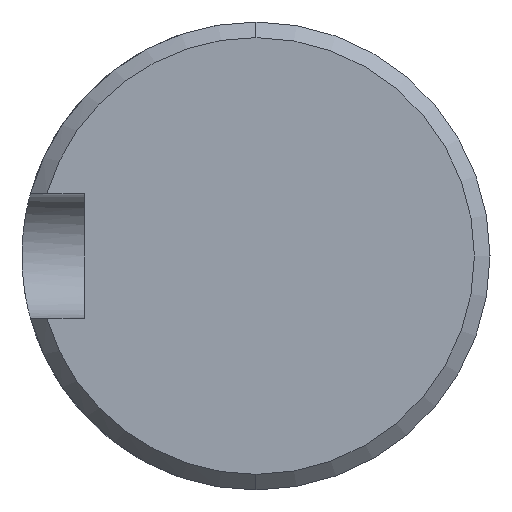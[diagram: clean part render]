
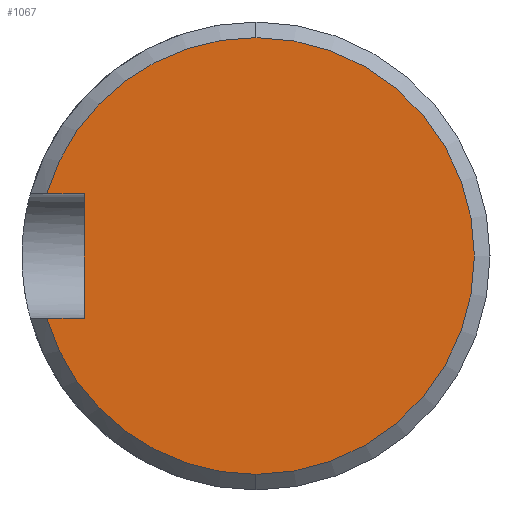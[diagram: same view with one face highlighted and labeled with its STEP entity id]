
A CAD part, left-side view. The second image highlights one B-rep face of the part: STEP entity #1067.
In plain terms, the highlighted planar face has unit normal (-1, 0, 0).
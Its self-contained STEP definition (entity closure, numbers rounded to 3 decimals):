
#163 = VERTEX_POINT ( 'NONE', #495 ) ;
#172 = EDGE_CURVE ( 'NONE', #205, #174, #517, .T. ) ;
#174 = VERTEX_POINT ( 'NONE', #535 ) ;
#175 = EDGE_CURVE ( 'NONE', #163, #205, #549, .T. ) ;
#205 = VERTEX_POINT ( 'NONE', #628 ) ;
#473 = CARTESIAN_POINT ( 'NONE',  ( 0., 11., 4. ) ) ;
#495 = CARTESIAN_POINT ( 'NONE',  ( 0., 0., -14. ) ) ;
#517 = CIRCLE ( 'NONE', #539, 14. ) ;
#526 = DIRECTION ( 'NONE',  ( 0., 0., 1. ) ) ;
#527 = DIRECTION ( 'NONE',  ( -1., 0., 0. ) ) ;
#528 = CARTESIAN_POINT ( 'NONE',  ( 0., 0., 0. ) ) ;
#530 = AXIS2_PLACEMENT_3D ( 'NONE', #528, #527, #526 ) ;
#531 = DIRECTION ( 'NONE',  ( 0., 0., 1. ) ) ;
#532 = DIRECTION ( 'NONE',  ( -1., 0., 0. ) ) ;
#533 = CARTESIAN_POINT ( 'NONE',  ( 0., 0., 0. ) ) ;
#535 = CARTESIAN_POINT ( 'NONE',  ( 0., 13.416, 4. ) ) ;
#539 = AXIS2_PLACEMENT_3D ( 'NONE', #533, #532, #531 ) ;
#549 = CIRCLE ( 'NONE', #530, 14. ) ;
#628 = CARTESIAN_POINT ( 'NONE',  ( 0., 0., 14. ) ) ;
#745 = FACE_OUTER_BOUND ( 'NONE', #1066, .T. ) ;
#746 = AXIS2_PLACEMENT_3D ( 'NONE', #801, #800, #799 ) ;
#747 = AXIS2_PLACEMENT_3D ( 'NONE', #782, #781, #811 ) ;
#748 = PLANE ( 'NONE',  #747 ) ;
#781 = DIRECTION ( 'NONE',  ( -1., 0., 0. ) ) ;
#782 = CARTESIAN_POINT ( 'NONE',  ( 0., 15., 0. ) ) ;
#784 = CIRCLE ( 'NONE', #746, 14. ) ;
#799 = DIRECTION ( 'NONE',  ( 0., 0., 1. ) ) ;
#800 = DIRECTION ( 'NONE',  ( -1., 0., 0. ) ) ;
#801 = CARTESIAN_POINT ( 'NONE',  ( 0., 0., 0. ) ) ;
#805 = DIRECTION ( 'NONE',  ( 0., 0., 1. ) ) ;
#807 = DIRECTION ( 'NONE',  ( 0., 1., 0. ) ) ;
#808 = VECTOR ( 'NONE', #807, 1000. ) ;
#809 = CARTESIAN_POINT ( 'NONE',  ( 0., 11., -4. ) ) ;
#810 = LINE ( 'NONE', #809, #808 ) ;
#811 = DIRECTION ( 'NONE',  ( 0., 0., 1. ) ) ;
#825 = DIRECTION ( 'NONE',  ( 0., 1., 0. ) ) ;
#826 = VECTOR ( 'NONE', #825, 1000. ) ;
#827 = CARTESIAN_POINT ( 'NONE',  ( 0., 11., 4. ) ) ;
#829 = LINE ( 'NONE', #827, #826 ) ;
#837 = CARTESIAN_POINT ( 'NONE',  ( 0., 11., -4. ) ) ;
#838 = VECTOR ( 'NONE', #805, 1000. ) ;
#844 = CARTESIAN_POINT ( 'NONE',  ( 0., 11., -4. ) ) ;
#845 = LINE ( 'NONE', #844, #838 ) ;
#847 = CARTESIAN_POINT ( 'NONE',  ( 0., 13.416, -4. ) ) ;
#1060 = VERTEX_POINT ( 'NONE', #473 ) ;
#1065 = ORIENTED_EDGE ( 'NONE', *, *, #172, .T. ) ;
#1066 = EDGE_LOOP ( 'NONE', ( #1068, #1091, #1090, #1086, #1082, #1065 ) ) ;
#1067 = ADVANCED_FACE ( 'NONE', ( #745 ), #748, .T. ) ;
#1068 = ORIENTED_EDGE ( 'NONE', *, *, #1089, .F. ) ;
#1069 = EDGE_CURVE ( 'NONE', #1093, #1084, #810, .T. ) ;
#1070 = EDGE_CURVE ( 'NONE', #1084, #163, #784, .T. ) ;
#1081 = EDGE_CURVE ( 'NONE', #1093, #1060, #845, .T. ) ;
#1082 = ORIENTED_EDGE ( 'NONE', *, *, #175, .T. ) ;
#1084 = VERTEX_POINT ( 'NONE', #847 ) ;
#1086 = ORIENTED_EDGE ( 'NONE', *, *, #1070, .T. ) ;
#1089 = EDGE_CURVE ( 'NONE', #1060, #174, #829, .T. ) ;
#1090 = ORIENTED_EDGE ( 'NONE', *, *, #1069, .T. ) ;
#1091 = ORIENTED_EDGE ( 'NONE', *, *, #1081, .F. ) ;
#1093 = VERTEX_POINT ( 'NONE', #837 ) ;
